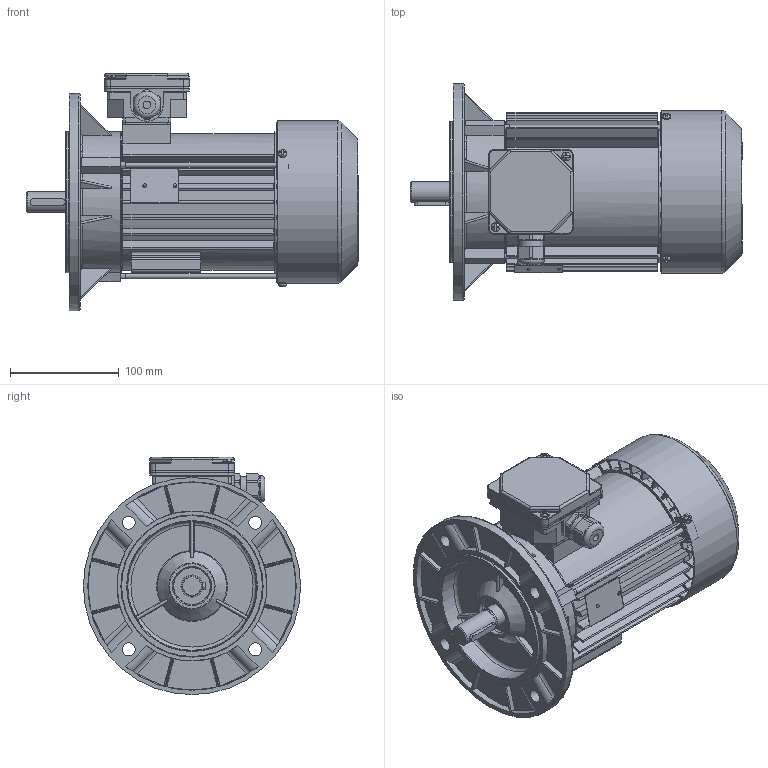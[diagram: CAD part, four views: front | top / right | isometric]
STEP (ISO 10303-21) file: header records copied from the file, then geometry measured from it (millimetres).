
FILE_DESCRIPTION( ( 'Unknown' ), '1' );
FILE_NAME( 'G:/Poczta Tk-1/STP/w.m.80/Sh80/SKh80x-.C.stp', 'Unknown', ( 'K. Szlosek' ), ( 'BESEL S.A.' ), 'PSStep 17.0.49', 'Unknown', ' ' );
FILE_SCHEMA( ( 'AUTOMOTIVE_DESIGN { 1 0 10303 214 1 1 1 1 }' ) );
Length unit declared in the file: millimetre
Products named in the file (29): skrznka zaciskowa trójfazowa ; K4-2820 Uszczelka nr 2 Sh71,80; Dławnica M20x1,5; K2-0859 Podstawa skrzynki 6-cio zaciskowej; K2-0860 Pokrywka skrzynki zaciskowej; Assem1; K1-1257 Kadłub S(E,M)h80-C i D; K2-2027 Tarcza łożyskowa P S(E,M)h80-.A,C; K1-1258  zmiana Tarcza kołnierzowa B5 SKh80-..; Wkręt samogwintujący M4x16; Wkręt samogwintujący M4x10; K3-7039 wał standard Sh80-C; K4-4489 Osłona przewietrznika Sh80,90-A,C; K4-2320 Uszczelka nr 1 Sh71,80; Wpust A6x6x32; K2-1715 Przewietrznik; Nitokołek A 2x6; Łożysko 6204; Śruba ściągająca E_M5x168; Tabliczka znamionowa 32x44
Assembly tree (44 placements, depth 3):
  Assem1
    K1-1257 Kadłub S(E,M)h80-C i D
    K2-2027 Tarcza łożyskowa P S(E,M)h80-.A,C
    K1-1258  zmiana Tarcza kołnierzowa B5 SKh80-..
    Wkręt samogwintujący M4x16  x2
    Wkręt samogwintujący M4x10  x3
    K3-7039 wał standard Sh80-C
    K4-4489 Osłona przewietrznika Sh80,90-A,C
    K4-2320 Uszczelka nr 1 Sh71,80
    Wpust A6x6x32
    K2-1715 Przewietrznik
    Nitokołek A 2x6  x2
    Łożysko 6204  x2
    Łożysko 6204  x2
    Łożysko 6204  x2
    Łożysko 6204  x2
    Łożysko 6204  x2
    Łożysko 6204  x2
    Łożysko 6204  x2
    Łożysko 6204  x2
    Łożysko 6204  x2
    Łożysko 6204  x2
    Śruba ściągająca E_M5x168  x3
    Tabliczka znamionowa 32x44
    skrznka zaciskowa trójfazowa 
      K4-2820 Uszczelka nr 2 Sh71,80
      Dławnica M20x1,5
      K2-0859 Podstawa skrzynki 6-cio zaciskowej
      K2-0860 Pokrywka skrzynki zaciskowej
Bounding box: 305.8 x 200 x 218.5 mm (x, y, z)
Volume: 1009872.9 mm3; surface area: 609686.9 mm2
Topology: 43 solids, 59 shells, 2366 faces, 6517 edges, 4213 vertices
Faces by surface type: plane 1182, cylinder 798, bspline 137, cone 111, torus 104, sphere 34
Full cylindrical faces by diameter (mm): 2 x2, 2.4 x2, 3 x1, 3.7 x11, 4 x5, 4.134 x3, 4.5 x1, 4.6 x3, 4.8 x4, 5 x7, 5.5 x3, 7 x1, 8 x9, 12 x4, 18.376 x1, 18.38 x1, 18.6 x1, 19 x1, 19.3 x1, 19.5 x2, 19.9 x1, 20 x5, 20.3 x2, 20.4 x4, 22.3 x1, 25 x1, 25.5 x1, 25.65 x1, 26 x3, 26.05 x1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
Entity records: 110007 total; most frequent: CARTESIAN_POINT 38443, ORIENTED_EDGE 11504, DIRECTION 11163, EDGE_CURVE 5752, AXIS2_PLACEMENT_3D 4069, VERTEX_POINT 3885, LINE 3025, VECTOR 3025
